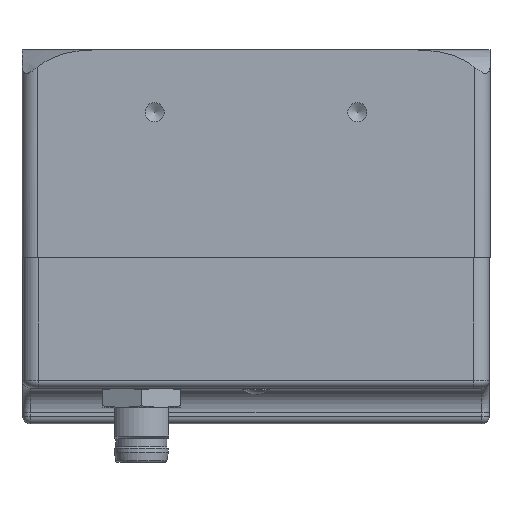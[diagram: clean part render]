
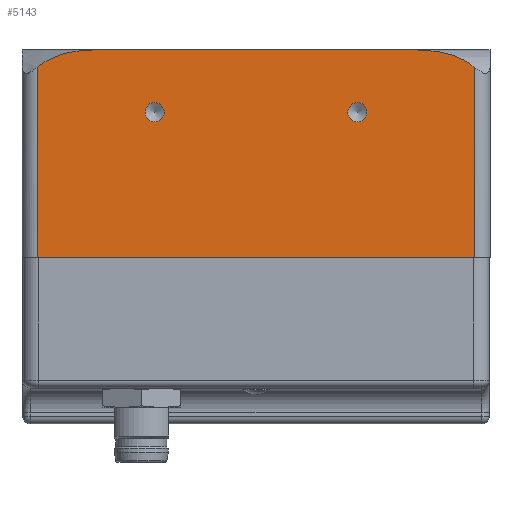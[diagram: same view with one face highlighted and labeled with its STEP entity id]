
A CAD part, left-side view. The second image highlights one B-rep face of the part: STEP entity #5143.
In plain terms, the highlighted planar face has unit normal (-1, 0, 0).
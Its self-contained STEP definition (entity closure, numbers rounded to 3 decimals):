
#5143 = ADVANCED_FACE( '', ( #12528, #12529, #12530 ), #12531, .T. );
#12528 = FACE_BOUND( '', #25698, .T. );
#12529 = FACE_BOUND( '', #25699, .T. );
#12530 = FACE_OUTER_BOUND( '', #25700, .T. );
#12531 = PLANE( '', #25701 );
#25698 = EDGE_LOOP( '', ( #44380 ) );
#25699 = EDGE_LOOP( '', ( #44381 ) );
#25700 = EDGE_LOOP( '', ( #44382, #44383, #44384, #44385, #44386, #44387 ) );
#25701 = AXIS2_PLACEMENT_3D( '', #44388, #44389, #44390 );
#44380 = ORIENTED_EDGE( '', *, *, #64650, .T. );
#44381 = ORIENTED_EDGE( '', *, *, #62065, .T. );
#44382 = ORIENTED_EDGE( '', *, *, #64651, .T. );
#44383 = ORIENTED_EDGE( '', *, *, #64652, .T. );
#44384 = ORIENTED_EDGE( '', *, *, #64653, .T. );
#44385 = ORIENTED_EDGE( '', *, *, #64654, .F. );
#44386 = ORIENTED_EDGE( '', *, *, #62912, .T. );
#44387 = ORIENTED_EDGE( '', *, *, #64655, .F. );
#44388 = CARTESIAN_POINT( '', ( -30., -30., 27.6 ) );
#44389 = DIRECTION( '', ( -1., 0., 0. ) );
#44390 = DIRECTION( '', ( 0., -1., 0. ) );
#62065 = EDGE_CURVE( '', #71068, #71068, #71069, .T. );
#62912 = EDGE_CURVE( '', #72527, #72525, #72528, .T. );
#64650 = EDGE_CURVE( '', #75356, #75356, #75357, .T. );
#64651 = EDGE_CURVE( '', #75358, #75359, #75360, .T. );
#64652 = EDGE_CURVE( '', #75359, #75361, #75362, .T. );
#64653 = EDGE_CURVE( '', #75361, #75363, #75364, .F. );
#64654 = EDGE_CURVE( '', #72527, #75363, #75365, .T. );
#64655 = EDGE_CURVE( '', #75358, #72525, #75366, .T. );
#71068 = VERTEX_POINT( '', #84203 );
#71069 = CIRCLE( '', #84204, 1.23 );
#72525 = VERTEX_POINT( '', #86491 );
#72527 = VERTEX_POINT( '', #86493 );
#72528 = LINE( '', #86494, #86495 );
#75356 = VERTEX_POINT( '', #90449 );
#75357 = CIRCLE( '', #90450, 1.23 );
#75358 = VERTEX_POINT( '', #90451 );
#75359 = VERTEX_POINT( '', #90452 );
#75360 = LINE( '', #90453, #90454 );
#75361 = VERTEX_POINT( '', #90455 );
#75362 = LINE( '', #90456, #90457 );
#75363 = VERTEX_POINT( '', #90458 );
#75364 = LINE( '', #90459, #90460 );
#75365 = B_SPLINE_CURVE_WITH_KNOTS( '', 3, ( #90461, #90462, #90463, #90464, #90465, #90466, #90467, #90468, #90469, #90470, #90471, #90472, #90473, #90474, #90475, #90476 ), .UNSPECIFIED., .F., .F., ( 4, 2, 2, 2, 2, 2, 2, 4 ), ( 0.049, 0.05, 0.051, 0.053, 0.054, 0.055, 0.056, 0.057 ), .UNSPECIFIED. );
#75366 = B_SPLINE_CURVE_WITH_KNOTS( '', 3, ( #90477, #90478, #90479, #90480, #90481, #90482, #90483, #90484, #90485, #90486, #90487, #90488 ), .UNSPECIFIED., .F., .F., ( 4, 2, 2, 2, 2, 4 ), ( 0.035, 0.036, 0.037, 0.039, 0.04, 0.042 ), .UNSPECIFIED. );
#84203 = CARTESIAN_POINT( '', ( -30., 11.771, 19.6 ) );
#84204 = AXIS2_PLACEMENT_3D( '', #102002, #102003, #102004 );
#86491 = CARTESIAN_POINT( '', ( -30., 20.604, 27.6 ) );
#86493 = CARTESIAN_POINT( '', ( -30., -20.604, 27.6 ) );
#86494 = CARTESIAN_POINT( '', ( -30., -30., 27.6 ) );
#86495 = VECTOR( '', #102982, 1000. );
#90449 = CARTESIAN_POINT( '', ( -30., -14.23, 19.6 ) );
#90450 = AXIS2_PLACEMENT_3D( '', #105114, #105115, #105116 );
#90451 = CARTESIAN_POINT( '', ( -30., 28., 25.401 ) );
#90452 = CARTESIAN_POINT( '', ( -30., 28., 1. ) );
#90453 = CARTESIAN_POINT( '', ( -30., 28., 27.6 ) );
#90454 = VECTOR( '', #105117, 1000. );
#90455 = CARTESIAN_POINT( '', ( -30., -28., 1. ) );
#90456 = CARTESIAN_POINT( '', ( -30., -30., 1. ) );
#90457 = VECTOR( '', #105118, 1000. );
#90458 = CARTESIAN_POINT( '', ( -30., -28., 25.401 ) );
#90459 = CARTESIAN_POINT( '', ( -30., -28., 27.6 ) );
#90460 = VECTOR( '', #105119, 1000. );
#90461 = CARTESIAN_POINT( '', ( -30., -20.604, 27.6 ) );
#90462 = CARTESIAN_POINT( '', ( -30., -20.929, 27.6 ) );
#90463 = CARTESIAN_POINT( '', ( -30., -21.256, 27.592 ) );
#90464 = CARTESIAN_POINT( '', ( -30., -21.911, 27.555 ) );
#90465 = CARTESIAN_POINT( '', ( -30., -22.24, 27.528 ) );
#90466 = CARTESIAN_POINT( '', ( -30., -23.218, 27.413 ) );
#90467 = CARTESIAN_POINT( '', ( -30., -23.863, 27.296 ) );
#90468 = CARTESIAN_POINT( '', ( -30., -24.815, 27.041 ) );
#90469 = CARTESIAN_POINT( '', ( -30., -25.131, 26.942 ) );
#90470 = CARTESIAN_POINT( '', ( -30., -25.748, 26.718 ) );
#90471 = CARTESIAN_POINT( '', ( -30., -26.049, 26.593 ) );
#90472 = CARTESIAN_POINT( '', ( -30., -26.636, 26.311 ) );
#90473 = CARTESIAN_POINT( '', ( -30., -26.923, 26.154 ) );
#90474 = CARTESIAN_POINT( '', ( -30., -27.477, 25.806 ) );
#90475 = CARTESIAN_POINT( '', ( -30., -27.747, 25.612 ) );
#90476 = CARTESIAN_POINT( '', ( -30., -28., 25.401 ) );
#90477 = CARTESIAN_POINT( '', ( -30., 28., 25.401 ) );
#90478 = CARTESIAN_POINT( '', ( -30., 27.748, 25.611 ) );
#90479 = CARTESIAN_POINT( '', ( -30., 27.482, 25.802 ) );
#90480 = CARTESIAN_POINT( '', ( -30., 26.925, 26.153 ) );
#90481 = CARTESIAN_POINT( '', ( -30., 26.633, 26.313 ) );
#90482 = CARTESIAN_POINT( '', ( -30., 25.742, 26.739 ) );
#90483 = CARTESIAN_POINT( '', ( -30., 25.126, 26.958 ) );
#90484 = CARTESIAN_POINT( '', ( -30., 23.861, 27.296 ) );
#90485 = CARTESIAN_POINT( '', ( -30., 23.207, 27.415 ) );
#90486 = CARTESIAN_POINT( '', ( -30., 21.906, 27.566 ) );
#90487 = CARTESIAN_POINT( '', ( -30., 21.255, 27.6 ) );
#90488 = CARTESIAN_POINT( '', ( -30., 20.604, 27.6 ) );
#102002 = CARTESIAN_POINT( '', ( -30., 13., 19.6 ) );
#102003 = DIRECTION( '', ( 1., 0., 0. ) );
#102004 = DIRECTION( '', ( 0., -1., 0. ) );
#102982 = DIRECTION( '', ( 0., 1., 0. ) );
#105114 = CARTESIAN_POINT( '', ( -30., -13., 19.6 ) );
#105115 = DIRECTION( '', ( 1., 0., 0. ) );
#105116 = DIRECTION( '', ( 0., -1., 0. ) );
#105117 = DIRECTION( '', ( 0., 0., -1. ) );
#105118 = DIRECTION( '', ( 0., -1., 0. ) );
#105119 = DIRECTION( '', ( 0., 0., -1. ) );
